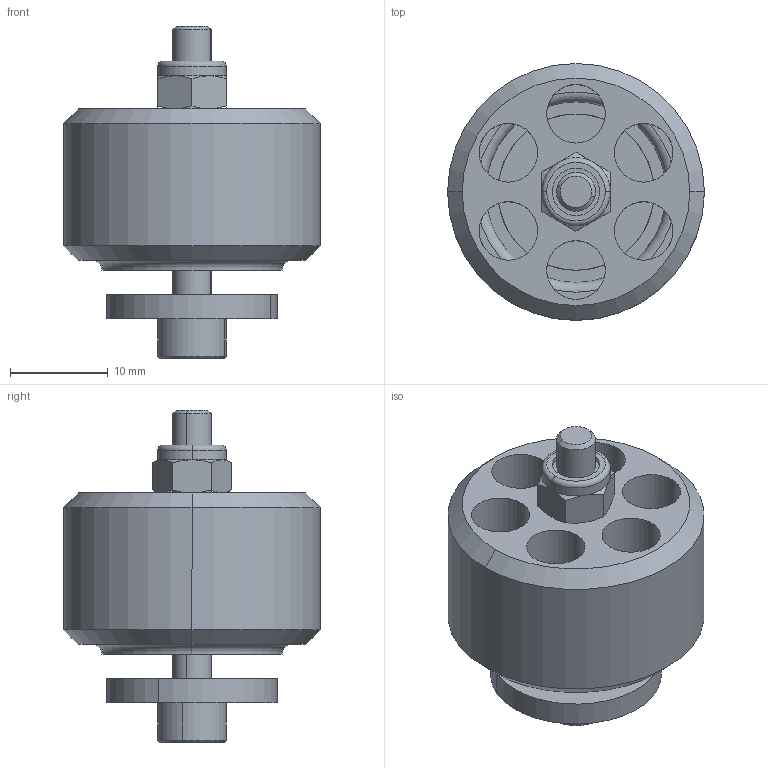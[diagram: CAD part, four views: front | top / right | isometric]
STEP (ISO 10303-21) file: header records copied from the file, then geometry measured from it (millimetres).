
FILE_DESCRIPTION (( 'STEP AP214' ), '1' );
FILE_NAME ('VSR34001.STEP', '2025-06-04T00:13:22', ( '' ), ( '' ), 'SwSTEP 2.0', 'SolidWorks 2023', '' );
FILE_SCHEMA (( 'AUTOMOTIVE_DESIGN' ));
Length unit declared in the file: millimetre
Products named in the file (1): VSR34001
Bounding box: 26.3 x 26.3 x 34 mm (x, y, z)
Surface area: 4891.5 mm2 (no closed solid volume)
Topology: 0 solids, 5 shells, 79 faces, 234 edges, 149 vertices
Faces by surface type: plane 31, cylinder 28, cone 14, torus 6
Entity records: 2794 total; most frequent: CARTESIAN_POINT 643, DIRECTION 486, ORIENTED_EDGE 406, EDGE_CURVE 232, AXIS2_PLACEMENT_3D 204, VERTEX_POINT 149, CIRCLE 124, EDGE_LOOP 93
